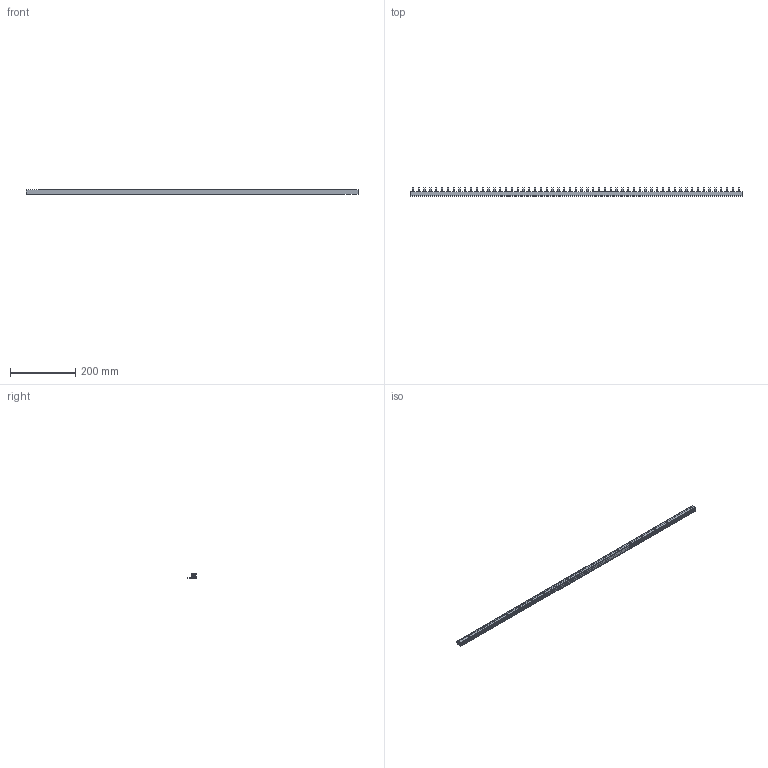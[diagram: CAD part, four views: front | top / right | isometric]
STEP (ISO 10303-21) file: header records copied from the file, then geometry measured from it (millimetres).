
FILE_DESCRIPTION (( 'STEP AP214' ), '1' );
FILE_NAME ('5040672 EZ9XPH357.STEP', '2019-10-01T13:06:10', ( '' ), ( '' ), 'SwSTEP 2.0', 'SolidWorks 2018', '' );
FILE_SCHEMA (( 'AUTOMOTIVE_DESIGN' ));
Length unit declared in the file: millimetre
Products named in the file (5): 122xxxx Phasenschienen S 10-16 qmm_1221470 Nr.1_T3_M19_10; 122xxxx Phasenschienen S 10-16 qmm_1221472 Nr.3_T3_M19_10; 13473xx C3-10_134.73.01 1016 mm; 5040672 EZ9XPH357; 122xxxx Phasenschienen S 10-16 qmm_1221471 Nr.2_T3_M19_10
Assembly tree (4 placements, depth 2):
  5040672 EZ9XPH357
    13473xx C3-10_134.73.01 1016 mm
    122xxxx Phasenschienen S 10-16 qmm_1221471 Nr.2_T3_M19_10
    122xxxx Phasenschienen S 10-16 qmm_1221470 Nr.1_T3_M19_10
    122xxxx Phasenschienen S 10-16 qmm_1221472 Nr.3_T3_M19_10
Bounding box: 1016 x 25 x 14.9 mm (x, y, z)
Volume: 111187.1 mm3; surface area: 215839.2 mm2
Topology: 4 solids, 4 shells, 1918 faces, 4476 edges, 2680 vertices
Faces by surface type: plane 1302, cylinder 616
Entity records: 53950 total; most frequent: DIRECTION 9786, CARTESIAN_POINT 9081, ORIENTED_EDGE 8952, EDGE_CURVE 4476, AXIS2_PLACEMENT_3D 3385, LINE 3016, VECTOR 3016, VERTEX_POINT 2680
